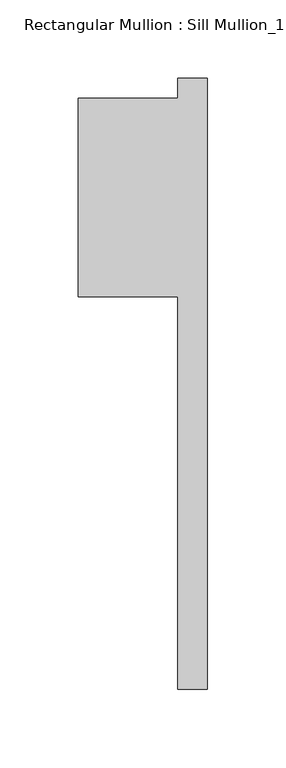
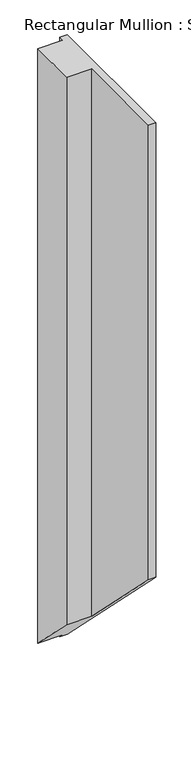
"""IFC4 building model written with IfcOpenShell, lengths in millimetres: member geometry."""

from ifc_helpers import new_model, si_unit, origin, place, context, project, spatial, faceted_brep, source, transform, mapped, element, save


def member_f9dd04e7(model_context):
    return source(origin(), model_context, "Body", "Brep", [
        faceted_brep([(-82.55, -50.8, 0.0), (-19.05, -50.8, 0.0), (-19.05, -301.625, 0.0), (0.0, -301.625, 0.0), (0.0, 88.9, 0.0), (-19.05, 88.9, 0.0), (-19.05, 76.2, 0.0), (-82.55, 76.2, 0.0), (-82.55, -50.8, -1473.835), (-19.05, -50.8, -1473.835), (-19.05, -301.625, -1223.01), (0.0, -301.625, -1223.01), (0.0, 88.9, -1613.535), (-19.05, 88.9, -1613.535), (-19.05, 76.2, -1600.835), (-82.55, 76.2, -1600.835)], [[[0, 1, 2, 3, 4, 5, 6, 7]], [[1, 0, 8, 9]], [[2, 1, 9, 10]], [[3, 2, 10, 11]], [[4, 3, 11, 12]], [[5, 4, 12, 13]], [[6, 5, 13, 14]], [[7, 6, 14, 15]], [[0, 7, 15, 8]], [[8, 15, 14, 13, 12, 11, 10, 9]]]),
    ])


if __name__ == "__main__":
    model = new_model("IFC4")
    model_context = context("Model", 3, world=origin())
    ifc_project = project(units=[si_unit("LENGTHUNIT", "METRE", prefix="MILLI")], contexts=[model_context])
    site = spatial("IfcSite", under=ifc_project)
    building = spatial("IfcBuilding", under=site)
    placement = place(None, origin())
    member_shape = member_f9dd04e7(model_context)
    element("IfcMember", 1, ObjectType="Rectangular Mullion : Sill Mullion_15\" thick wall", at=placement, inside=building, context=model_context, shape_type="MappedRepresentation", body=[
        mapped(member_shape, transform((0.0, 0.0, 0.0), x_axis=(1.0, 0.0, 0.0), y_axis=(0.0, 1.0, 0.0), z_axis=(0.0, 0.0, 1.0))),
    ])
    save(model, "model.ifc")
